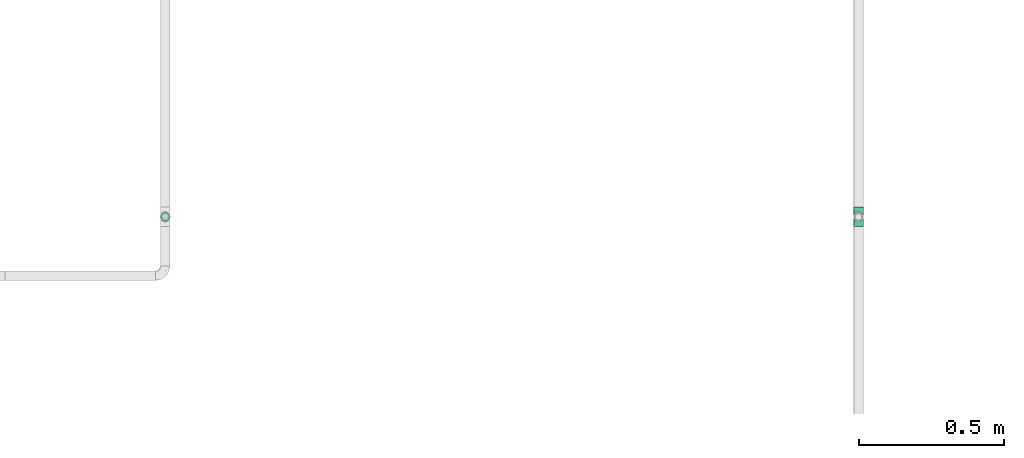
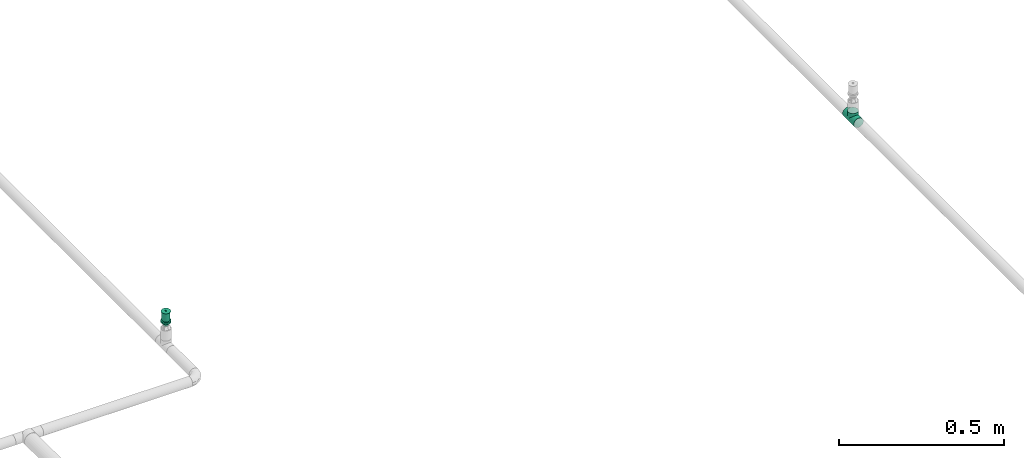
# One storey, part 13 of 31: 1 flow fitting, 1 flow terminal.
"""IFC2X3 building model written with IfcOpenShell, lengths in millimetres."""

from ifc_helpers import new_model, entity, si_unit, converted_unit, derived_unit, direction, frame, origin_with_axes, place, context, subcontext, project, spatial, open_shell, surface_model, source, transform, mapped, type_object, element, save


model = new_model("IFC2X3")

# Units and contexts
model_context = context("Model", 3, precision=0.01, world=frame((0.0, 4.29681676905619e-09, 0.0)), true_north=direction((4.01073788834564e-13, 1.0)))
plan_context = context("Plan", 3, precision=0.01, world=frame((0.0, 4.29681676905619e-09, 0.0)), true_north=direction((4.01073788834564e-13, 1.0)))
body_context = subcontext(model_context, "Body", "Model", "MODEL_VIEW")
ifc_project = project(units=[converted_unit("PLANEANGLEUNIT", "DEGREE", entity("IfcPositiveLengthMeasure", 0.0174532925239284), si_unit("PLANEANGLEUNIT", "RADIAN"), dimensions=[0, 0, 0, 0, 0, 0, 0]), si_unit("AREAUNIT", "SQUARE_METRE"), si_unit("LENGTHUNIT", "METRE", prefix="MILLI"), si_unit("MASSUNIT", "GRAM", prefix="KILO"), si_unit("POWERUNIT", "WATT"), si_unit("PRESSUREUNIT", "PASCAL", prefix="KILO"), si_unit("FORCEUNIT", "NEWTON", prefix="KILO"), si_unit("ELECTRICVOLTAGEUNIT", "VOLT"), si_unit("ELECTRICCURRENTUNIT", "AMPERE"), si_unit("THERMODYNAMICTEMPERATUREUNIT", "DEGREE_CELSIUS"), si_unit("TIMEUNIT", "SECOND"), si_unit("VOLUMEUNIT", "CUBIC_METRE"), derived_unit("LINEARVELOCITYUNIT", [(si_unit("LENGTHUNIT", "METRE"), 1), (si_unit("TIMEUNIT", "SECOND"), -1)]), derived_unit("VOLUMETRICFLOWRATEUNIT", [(si_unit("VOLUMEUNIT", "CUBIC_METRE"), 1), (si_unit("TIMEUNIT", "SECOND"), -1)]), derived_unit("THERMALTRANSMITTANCEUNIT", [(si_unit("POWERUNIT", "WATT"), 1), (si_unit("THERMODYNAMICTEMPERATUREUNIT", "KELVIN"), -1), (si_unit("AREAUNIT", "SQUARE_METRE"), -1)]), derived_unit("SOUNDPRESSUREUNIT", [(si_unit("PRESSUREUNIT", "PASCAL"), 1)])], contexts=[model_context, plan_context])

# Site, building, storey
site_placement = place(None, frame((0.0, -4.29681676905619e-09, 0.0), z_axis=(0.0, 0.0, 1.0), x_axis=(1.0, 0.0, 0.0)))
site = spatial("IfcSite", under=ifc_project, at=site_placement, CompositionType="ELEMENT")
building_placement = place(site_placement, frame((0.0, 4.29681676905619e-09, 0.0), z_axis=(0.0, 0.0, 1.0), x_axis=(1.0, 0.0, 0.0)))
building = spatial("IfcBuilding", under=site, at=building_placement, Name="mc-building", CompositionType="ELEMENT")
storey_placement = place(building_placement, frame((0.0, 0.0, 200300.0), z_axis=(0.0, 0.0, 1.0), x_axis=(1.0, 0.0, 0.0)))
storey = spatial("IfcBuildingStorey", under=building, at=storey_placement, Name="Nivå C", CompositionType="ELEMENT", Elevation=200300.0)

# Flow fitting
pipe_fitting_type = type_object("IfcPipeFittingType", Name="magi_pipe_fe_tee_centric_90_NOR", PredefinedType="JUNCTION")
shared_shape_1 = source(origin_with_axes(), body_context, "Body", "SurfaceModel", [
    surface_model("IfcShellBasedSurfaceModel", [(-33.8, 4.37404, -16.32415), (-33.8, 0.0, -16.9), (-33.8, 16.32415, -4.37404), (-33.8, 8.45, -14.63583), (-33.8, 11.9501, -11.9501), (-33.8, 14.63583, -8.45), (-33.8, -16.9, 0.0), (-33.8, -11.9501, -11.9501), (-33.8, -14.63583, -8.45), (-33.8, -8.45, -14.63583), (-33.8, -4.37404, -16.32415), (-33.8, -16.32415, -4.37404), (-33.8, 14.63583, 8.45), (-33.8, 16.32415, 4.37404), (-33.8, -8.45, 14.63583), (-33.8, 8.45, 14.63583), (-33.8, 11.9501, 11.9501), (-33.8, 4.37404, 16.32415), (-33.8, 0.0, 16.9), (-33.8, -11.9501, 11.9501), (-33.8, -14.63583, 8.45), (-33.8, -16.32415, 4.37404), (-33.8, -4.37404, 16.32415), (-33.8, 16.9, 0.0), (33.8, 4.37404, -16.32415), (33.8, -16.9, 0.0), (33.8, 0.0, -16.9), (33.8, 14.63583, -8.45), (33.8, 8.45, -14.63583), (33.8, 16.32415, -4.37404), (33.8, 11.9501, -11.9501), (33.8, -16.32415, 4.37404), (33.8, -8.45, -14.63583), (33.8, -4.37404, -16.32415), (33.8, -11.9501, -11.9501), (33.8, -14.63583, -8.45), (33.8, -16.32415, -4.37404), (33.8, 16.32415, 4.37404), (33.8, 8.45, 14.63583), (33.8, 14.63583, 8.45), (33.8, 11.9501, 11.9501), (33.8, -8.45, 14.63583), (33.8, 4.37404, 16.32415), (33.8, -14.63583, 8.45), (33.8, -11.9501, 11.9501), (33.8, 0.0, 16.9), (33.8, -4.37404, 16.32415), (33.8, 16.9, 0.0), (16.28698, -16.28698, 4.51047), (16.9, -16.9, 0.0), (14.62704, -14.62704, 8.4652), (9.47213, -9.47213, 13.99602), (12.26343, -12.26343, 11.62834), (-16.9, -16.9, 0.0), (-16.28698, -16.28698, 4.51047), (-14.62704, -14.62704, 8.4652), (-12.26343, -12.26343, 11.62834), (-9.47213, -9.47213, 13.99602), (-6.42894, -6.42894, 15.62942), (6.42894, -6.42894, 15.62942), (3.24522, -3.24522, 16.58549), (0.0, 0.0, 16.9), (-3.24522, -3.24522, 16.58549), (3.24522, -3.24522, -16.58549), (0.0, 0.0, -16.9), (-3.24522, -3.24522, -16.58549), (-6.42894, -6.42894, -15.62942), (6.42894, -6.42894, -15.62942), (9.47213, -9.47213, -13.99602), (12.26343, -12.26343, -11.62834), (14.62704, -14.62704, -8.4652), (16.28698, -16.28698, -4.51047), (-9.47213, -9.47213, -13.99602), (-12.26343, -12.26343, -11.62834), (-16.28698, -16.28698, -4.51047), (-14.62704, -14.62704, -8.4652), (4.37404, -25.35, -16.32415), (-16.9, -25.35, 0.0), (0.0, -25.35, -16.9), (14.63583, -25.35, -8.45), (8.45, -25.35, -14.63583), (16.32415, -25.35, -4.37404), (11.9501, -25.35, -11.9501), (-11.9501, -25.35, -11.9501), (-8.45, -25.35, -14.63583), (-4.37404, -25.35, -16.32415), (-14.63583, -25.35, -8.45), (-16.32415, -25.35, -4.37404), (16.9, -25.35, 0.0), (8.45, -25.35, 14.63583), (16.32415, -25.35, 4.37404), (14.63583, -25.35, 8.45), (-8.45, -25.35, 14.63583), (11.9501, -25.35, 11.9501), (4.37404, -25.35, 16.32415), (-16.32415, -25.35, 4.37404), (-11.9501, -25.35, 11.9501), (-14.63583, -25.35, 8.45), (0.0, -25.35, 16.9), (-4.37404, -25.35, 16.32415)], [open_shell([[[0, 1, 2]], [[3, 0, 4]], [[0, 2, 5]], [[4, 0, 5]], [[6, 2, 1]], [[7, 8, 9]], [[1, 10, 9]], [[11, 6, 8]], [[1, 9, 8]], [[1, 8, 6]], [[6, 12, 2]], [[12, 13, 2]], [[14, 12, 6]], [[12, 14, 15]], [[16, 12, 15]], [[17, 15, 18]], [[19, 14, 20]], [[21, 20, 14]], [[22, 18, 14]], [[14, 6, 21]], [[14, 18, 15]], [[23, 2, 13]], [[24, 25, 26]], [[27, 24, 28]], [[27, 29, 24]], [[27, 28, 30]], [[31, 25, 24]], [[26, 32, 33]], [[26, 34, 32]], [[35, 25, 36]], [[35, 34, 26]], [[25, 35, 26]], [[24, 29, 31]], [[29, 37, 38]], [[38, 37, 39]], [[38, 31, 29]], [[38, 39, 40]], [[41, 38, 42]], [[43, 41, 44]], [[41, 43, 31]], [[41, 45, 46]], [[41, 31, 38]], [[42, 45, 41]], [[29, 47, 37]], [[31, 43, 48]], [[25, 31, 49]], [[49, 31, 48]], [[43, 50, 48]], [[44, 41, 51]], [[50, 43, 52]], [[51, 52, 44]], [[52, 43, 44]], [[53, 54, 21]], [[53, 21, 6]], [[21, 54, 20]], [[54, 55, 20]], [[56, 57, 19]], [[19, 20, 56]], [[19, 57, 14]], [[56, 20, 55]], [[14, 57, 58]], [[51, 41, 59]], [[60, 45, 61]], [[59, 46, 60]], [[46, 59, 41]], [[60, 46, 45]], [[61, 45, 42]], [[39, 37, 13]], [[16, 38, 40]], [[12, 40, 39]], [[42, 38, 15]], [[23, 37, 47]], [[62, 61, 18]], [[62, 22, 58]], [[22, 62, 18]], [[58, 22, 14]], [[61, 17, 18]], [[42, 17, 61]], [[15, 17, 42]], [[15, 38, 16]], [[12, 16, 40]], [[13, 12, 39]], [[37, 23, 13]], [[5, 27, 30]], [[23, 47, 29]], [[30, 28, 3]], [[27, 2, 29]], [[26, 33, 63]], [[26, 64, 24]], [[64, 26, 63]], [[28, 24, 0]], [[64, 0, 24]], [[4, 30, 3]], [[2, 27, 5]], [[5, 30, 4]], [[2, 23, 29]], [[65, 66, 10]], [[1, 0, 64]], [[1, 65, 10]], [[66, 9, 10]], [[0, 3, 28]], [[1, 64, 65]], [[63, 33, 67]], [[32, 34, 68]], [[69, 68, 34]], [[35, 70, 69]], [[69, 34, 35]], [[32, 68, 67]], [[36, 25, 49]], [[36, 71, 35]], [[71, 36, 49]], [[35, 71, 70]], [[72, 9, 66]], [[72, 7, 9]], [[7, 72, 73]], [[7, 73, 8]], [[74, 53, 11]], [[75, 74, 8]], [[74, 11, 8]], [[11, 53, 6]], [[75, 8, 73]], [[32, 67, 33]], [[76, 77, 78]], [[79, 76, 80]], [[79, 81, 76]], [[79, 80, 82]], [[77, 76, 81]], [[78, 83, 84]], [[84, 85, 78]], [[86, 77, 87]], [[83, 78, 86]], [[77, 86, 78]], [[81, 88, 77]], [[89, 88, 90]], [[89, 90, 91]], [[92, 77, 89]], [[89, 91, 93]], [[92, 89, 94]], [[95, 96, 97]], [[96, 95, 92]], [[92, 98, 99]], [[95, 77, 92]], [[94, 98, 92]], [[89, 77, 88]], [[77, 95, 53]], [[54, 53, 95]], [[97, 96, 56]], [[96, 92, 57]], [[95, 97, 54]], [[58, 92, 99]], [[55, 54, 97]], [[56, 55, 97]], [[58, 57, 92]], [[98, 61, 62]], [[58, 99, 62]], [[56, 96, 57]], [[62, 99, 98]], [[94, 60, 98]], [[89, 59, 94]], [[91, 90, 48]], [[52, 93, 91]], [[93, 51, 89]], [[49, 90, 88]], [[59, 60, 94]], [[51, 59, 89]], [[49, 48, 90]], [[50, 52, 91]], [[48, 50, 91]], [[51, 93, 52]], [[98, 60, 61]], [[88, 81, 49]], [[71, 49, 81]], [[79, 82, 69]], [[82, 80, 68]], [[81, 79, 71]], [[67, 80, 76]], [[70, 71, 79]], [[69, 70, 79]], [[67, 68, 80]], [[78, 64, 63]], [[67, 76, 63]], [[69, 82, 68]], [[63, 76, 78]], [[85, 65, 78]], [[84, 66, 85]], [[86, 87, 74]], [[86, 73, 83]], [[72, 84, 83]], [[53, 87, 77]], [[66, 65, 85]], [[72, 66, 84]], [[53, 74, 87]], [[75, 73, 86]], [[74, 75, 86]], [[72, 83, 73]], [[78, 65, 64]]])]),
])
flow_fitting_placement = place(storey_placement, frame((608500.0, 400928.19532, 2900.0), z_axis=(-1.0, 0.0, 0.0), x_axis=(0.0, 1.0, 0.0)))
element("IfcFlowFitting", 1, at=flow_fitting_placement, inside=storey, type_object=pipe_fitting_type, Name="magi_pipe_fe_tee_centric_90_NOR", context=body_context, shape_type="MappedRepresentation", body=[
    mapped(shared_shape_1, transform((0.0, 0.0, 0.0), scale=1.0)),
])

# Flow terminal
fire_suppression_terminal_type = type_object("IfcFireSuppressionTerminalType", Name="68DGR-STD-STÅENDE", PredefinedType="NOTDEFINED")
shared_shape_2 = source(origin_with_axes(), body_context, "Body", "SurfaceModel", [
    surface_model("IfcShellBasedSurfaceModel", [(12.55704, 3.36465, 21.14766), (13.0, 0.0, 21.14766), (12.55704, -3.36465, 21.14766), (-12.55704, -3.36465, 21.14766), (-11.25833, -6.5, 21.14766), (-11.25833, -6.5, 51.0), (3.36465, -12.55704, 51.0), (3.36465, -12.55704, 21.14766), (6.5, -11.25833, 21.14766), (9.19239, -9.19239, 21.14766), (11.25833, -6.5, 21.14766), (9.19239, -9.19239, 51.0), (6.5, -11.25833, 51.0), (11.25833, -6.5, 51.0), (12.55704, -3.36465, 51.0), (13.0, 0.0, 51.0), (9.19239, 9.19239, 51.0), (11.25833, 6.5, 21.14766), (9.19239, 9.19239, 21.14766), (11.25833, 6.5, 51.0), (12.55704, 3.36465, 51.0), (6.5, 11.25833, 51.0), (6.5, 11.25833, 21.14766), (3.36465, 12.55704, 21.14766), (3.36465, 12.55704, 51.0), (-11.25833, 6.5, 51.0), (-11.25833, 6.5, 21.14766), (-12.55704, 3.36465, 21.14766), (0.0, -2.5, 51.0), (-2.5, 0.0, 51.0), (0.0, 2.5, 51.0), (2.5, 0.0, 51.0), (11.31371, 11.31371, 53.0), (-11.31371, 11.31371, 53.0), (-11.31371, -11.31371, 53.0), (11.31371, -11.31371, 53.0), (1.62635, 1.62635, 51.0), (2.16506, 1.25, 51.0), (1.99186, 1.15, 51.0), (-1.76777, 1.76777, 51.0), (-1.25, 2.16506, 51.0), (-1.62635, 1.62635, 51.0), (1.99186, -1.15, 51.0), (2.16506, -1.25, 51.0), (1.62635, -1.62635, 51.0), (-1.62635, -1.62635, 51.0), (-1.25, -2.16506, 51.0), (-1.76777, -1.76777, 51.0), (0.0, 7.3, 0.0), (1.94114, 7.24444, 0.0), (1.88938, 7.05126, 0.0), (5.16188, 5.16188, 0.0), (6.49519, 3.75, 0.0), (6.32199, 3.65, 0.0), (-5.3033, 5.3033, 0.0), (-3.75, 6.49519, 0.0), (-5.16188, 5.16188, 0.0), (6.32199, -3.65, 0.0), (6.49519, -3.75, 0.0), (5.16188, -5.16188, 0.0), (1.88938, -7.05126, 0.0), (1.94114, -7.24444, 0.0), (0.0, -7.3, 0.0), (-5.16188, -5.16188, 0.0), (-3.75, -6.49519, 0.0), (-5.3033, -5.3033, 0.0), (-3.36465, 12.55704, 51.0), (-6.5, 11.25833, 51.0), (0.0, 13.0, 51.0), (-9.19239, 9.19239, 51.0), (0.0, -13.0, 51.0), (-9.19239, -9.19239, 51.0), (-12.55704, -3.36465, 51.0), (-6.5, -11.25833, 51.0), (-3.36465, -12.55704, 51.0), (-7.5, 0.0, -0.1), (-7.24444, 1.94114, 0.1), (-7.24444, 1.94114, -0.1), (-6.49519, 3.75, 0.1), (-6.49519, 3.75, -0.1), (-3.75, 6.49519, -0.1), (-5.3033, 5.3033, -0.1), (-3.75, 6.49519, 0.1), (-5.3033, 5.3033, 0.1), (-1.94114, 7.24444, -0.1), (-1.94114, 7.24444, 0.1), (-7.5, 0.0, 0.1), (0.0, 7.5, 0.1), (0.0, 7.5, -0.1), (1.94114, 7.24444, 0.1), (1.94114, 7.24444, -0.1), (3.75, 6.49519, 0.1), (3.75, 6.49519, -0.1), (6.49519, 3.75, -0.1), (5.3033, 5.3033, -0.1), (6.49519, 3.75, 0.1), (5.3033, 5.3033, 0.1), (7.24444, 1.94114, -0.1), (7.24444, 1.94114, 0.1), (7.5, 0.0, 0.1), (7.5, 0.0, -0.1), (-7.24444, -1.94114, 0.1), (7.24444, -1.94114, 0.1), (5.3033, -5.3033, 0.1), (6.49519, -3.75, 0.1), (-6.49519, -3.75, 0.1), (0.0, -7.5, 0.1), (1.94114, -7.24444, 0.1), (3.75, -6.49519, 0.1), (-3.75, -6.49519, 0.1), (-1.94114, -7.24444, 0.1), (-5.3033, -5.3033, 0.1), (0.0, -7.5, -0.1), (-6.49519, -3.75, -0.1), (1.94114, -7.24444, -0.1), (3.75, -6.49519, -0.1), (5.3033, -5.3033, -0.1), (7.24444, -1.94114, -0.1), (6.49519, -3.75, -0.1), (-3.75, -6.49519, -0.1), (-5.3033, -5.3033, -0.1), (-1.94114, -7.24444, -0.1), (-7.24444, -1.94114, -0.1), (16.0, 0.0, 53.0), (0.0, -16.0, 53.0), (-16.0, 0.0, 53.0), (0.0, 16.0, 53.0), (0.64705, 2.41481, 57.0), (0.0, 2.5, 57.0), (1.25, 2.16506, 57.0), (-2.5, 0.0, 57.0), (1.76777, 1.76777, 57.0), (2.41481, 0.64705, 57.0), (2.16506, 1.25, 57.0), (-0.64705, 2.41481, 57.0), (-1.25, 2.16506, 57.0), (-1.76777, 1.76777, 57.0), (-2.16506, 1.25, 57.0), (-2.41481, 0.64705, 57.0), (2.5, 0.0, 57.0), (1.76777, -1.76777, 57.0), (2.16506, -1.25, 57.0), (2.41481, -0.64705, 57.0), (-2.41481, -0.64705, 57.0), (0.64705, -2.41481, 57.0), (1.25, -2.16506, 57.0), (0.0, -2.5, 57.0), (-1.76777, -1.76777, 57.0), (-2.16506, -1.25, 57.0), (-1.25, -2.16506, 57.0), (-0.64705, -2.41481, 57.0), (1.15, -1.99186, 51.0), (1.76777, -1.76777, 51.0), (1.25, -2.16506, 51.0), (0.59528, -2.22163, 51.0), (0.0, -2.3, 51.0), (0.64705, -2.41481, 51.0), (2.22163, -0.59528, 51.0), (2.3, 0.0, 51.0), (2.41481, -0.64705, 51.0), (-0.64705, -2.41481, 51.0), (-0.59528, -2.22163, 51.0), (-1.15, -1.99186, 51.0), (-2.16506, -1.25, 51.0), (-1.99186, -1.15, 51.0), (-2.22163, -0.59528, 51.0), (-2.3, 0.0, 51.0), (-2.41481, -0.64705, 51.0), (2.22163, 0.59528, 51.0), (2.41481, 0.64705, 51.0), (1.76777, 1.76777, 51.0), (1.15, 1.99186, 51.0), (1.25, 2.16506, 51.0), (0.59528, 2.22163, 51.0), (0.0, 2.3, 51.0), (0.64705, 2.41481, 51.0), (-1.99186, 1.15, 51.0), (-2.16506, 1.25, 51.0), (-2.41481, 0.64705, 51.0), (-2.22163, 0.59528, 51.0), (-0.64705, 2.41481, 51.0), (-0.59528, 2.22163, 51.0), (-1.15, 1.99186, 51.0), (-2.22163, 0.59528, 56.8), (-1.99186, 1.15, 56.8), (-1.15, 1.99186, 56.8), (-1.62635, 1.62635, 56.8), (-0.59528, 2.22163, 56.8), (-2.3, 0.0, 56.8), (0.0, 2.3, 56.8), (0.59528, 2.22163, 56.8), (1.15, 1.99186, 56.8), (1.99186, 1.15, 56.8), (1.62635, 1.62635, 56.8), (2.22163, 0.59528, 56.8), (2.3, 0.0, 56.8), (2.22163, -0.59528, 56.8), (1.99186, -1.15, 56.8), (1.62635, -1.62635, 56.8), (1.15, -1.99186, 56.8), (0.59528, -2.22163, 56.8), (0.0, -2.3, 56.8), (-1.99186, -1.15, 56.8), (-2.22163, -0.59528, 56.8), (-1.62635, -1.62635, 56.8), (-0.59528, -2.22163, 56.8), (-1.15, -1.99186, 56.8), (8.0, -13.85641, 13.0), (4.1411, -15.45481, 13.0), (0.0, -16.0, 13.0), (-4.1411, -15.45481, 13.0), (15.45481, -4.1411, 13.0), (13.85641, -8.0, 13.0), (11.31371, -11.31371, 13.0), (-16.0, 0.0, 13.0), (-8.0, -13.85641, 13.0), (-11.31371, -11.31371, 13.0), (-13.85641, -8.0, 13.0), (-15.45481, -4.1411, 13.0), (15.45481, 4.1411, 13.0), (4.1411, 15.45481, 13.0), (13.85641, 8.0, 13.0), (8.0, 13.85641, 13.0), (11.31371, 11.31371, 13.0), (-15.45481, 4.1411, 13.0), (-11.31371, 11.31371, 13.0), (-8.0, 13.85641, 13.0), (-13.85641, 8.0, 13.0), (-4.1411, 15.45481, 13.0), (0.0, 16.0, 13.0), (16.0, 0.0, 13.0), (7.05126, 1.88938, 12.8), (1.88938, 7.05126, 12.8), (3.65, 6.32199, 12.8), (6.32199, 3.65, 12.8), (5.16188, 5.16188, 12.8), (7.3, 0.0, 12.8), (0.0, 7.3, 12.8), (-3.65, 6.32199, 12.8), (-1.88938, 7.05126, 12.8), (-5.16188, 5.16188, 12.8), (-7.05126, 1.88938, 12.8), (-6.32199, 3.65, 12.8), (7.05126, -1.88938, 12.8), (0.0, -7.3, 12.8), (6.32199, -3.65, 12.8), (3.65, -6.32199, 12.8), (5.16188, -5.16188, 12.8), (1.88938, -7.05126, 12.8), (-7.3, 0.0, 12.8), (-6.32199, -3.65, 12.8), (-7.05126, -1.88938, 12.8), (-1.88938, -7.05126, 12.8), (-5.16188, -5.16188, 12.8), (-3.65, -6.32199, 12.8), (-7.05126, 1.88938, 0.0), (-7.3, 0.0, 0.0), (-6.32199, 3.65, 0.0), (-3.65, 6.32199, 0.0), (-1.88938, 7.05126, 0.0), (3.65, 6.32199, 0.0), (7.05126, 1.88938, 0.0), (7.3, 0.0, 0.0), (3.75, 6.49519, 13.0), (1.94114, 7.24444, 13.0), (7.5, 0.0, 13.0), (5.3033, 5.3033, 13.0), (7.24444, 1.94114, 13.0), (6.49519, 3.75, 13.0), (-5.3033, 5.3033, 13.0), (-7.24444, -1.94114, 13.0), (-1.94114, 7.24444, 13.0), (-3.75, 6.49519, 13.0), (0.0, 7.5, 13.0), (-6.49519, 3.75, 13.0), (-7.24444, 1.94114, 13.0), (7.24444, -1.94114, 13.0), (5.3033, -5.3033, 13.0), (6.49519, -3.75, 13.0), (-6.49519, -3.75, 13.0), (0.0, -7.5, 13.0), (1.94114, -7.24444, 13.0), (3.75, -6.49519, 13.0), (-7.5, 0.0, 13.0), (-3.75, -6.49519, 13.0), (-1.94114, -7.24444, 13.0), (-5.3033, -5.3033, 13.0), (3.65, -6.32199, 0.0), (5.3033, -5.3033, 0.0), (3.75, -6.49519, 0.0), (0.0, -7.5, 0.0), (7.05126, -1.88938, 0.0), (7.24444, -1.94114, 0.0), (7.5, 0.0, 0.0), (-1.94114, -7.24444, 0.0), (-1.88938, -7.05126, 0.0), (-3.65, -6.32199, 0.0), (-6.49519, -3.75, 0.0), (-6.32199, -3.65, 0.0), (-7.05126, -1.88938, 0.0), (-7.24444, -1.94114, 0.0), (-7.5, 0.0, 0.0), (7.24444, 1.94114, 0.0), (5.3033, 5.3033, 0.0), (3.75, 6.49519, 0.0), (0.0, 7.5, 0.0), (-6.49519, 3.75, 0.0), (-7.24444, 1.94114, 0.0), (-1.94114, 7.24444, 0.0), (-12.55704, 3.36465, 51.0), (-13.0, 0.0, 51.0), (0.0, -13.0, 21.14766), (-3.36465, -12.55704, 21.14766), (-6.5, -11.25833, 21.14766), (-9.19239, -9.19239, 21.14766), (-13.0, 0.0, 21.14766), (-9.19239, 9.19239, 21.14766), (-6.5, 11.25833, 21.14766), (-3.36465, 12.55704, 21.14766), (0.0, 13.0, 21.14766), (11.31371, 11.31371, 19.0), (8.0, 13.85641, 19.0), (4.1411, 15.45481, 19.0), (-8.0, 13.85641, 19.0), (16.0, 0.0, 19.0), (15.45481, 4.1411, 19.0), (13.85641, 8.0, 19.0), (-4.1411, 15.45481, 19.0), (0.0, 16.0, 19.0), (-11.31371, 11.31371, 19.0), (-13.85641, 8.0, 19.0), (-15.45481, 4.1411, 19.0), (15.45481, -4.1411, 19.0), (11.31371, -11.31371, 19.0), (13.85641, -8.0, 19.0), (-16.0, 0.0, 19.0), (0.0, -16.0, 19.0), (4.1411, -15.45481, 19.0), (8.0, -13.85641, 19.0), (-13.85641, -8.0, 19.0), (-11.31371, -11.31371, 19.0), (-15.45481, -4.1411, 19.0), (-8.0, -13.85641, 19.0), (-4.1411, -15.45481, 19.0)], [open_shell([[[0, 1, 2]], [[3, 4, 5]], [[6, 7, 8]], [[9, 10, 11]], [[9, 11, 12]], [[10, 13, 11]], [[14, 13, 2]], [[1, 15, 14]], [[16, 17, 18]], [[0, 19, 20]], [[20, 15, 1]], [[21, 16, 18]], [[22, 23, 24]], [[16, 19, 17]], [[25, 26, 27]], [[28, 29, 30]], [[30, 31, 28]], [[31, 30, 32]], [[33, 30, 29]], [[29, 28, 34]], [[35, 28, 31]], [[36, 37, 38]], [[39, 40, 41]], [[42, 43, 44]], [[45, 46, 47]], [[48, 49, 50]], [[51, 52, 53]], [[54, 55, 56]], [[57, 58, 59]], [[60, 61, 62]], [[63, 64, 65]], [[66, 67, 68]], [[67, 24, 68]], [[69, 25, 67]], [[15, 20, 14]], [[70, 6, 12]], [[5, 71, 72]], [[73, 74, 71]], [[72, 71, 74]], [[75, 76, 77]], [[77, 78, 79]], [[80, 81, 82]], [[83, 81, 79]], [[84, 80, 85]], [[76, 78, 77]], [[75, 86, 76]], [[80, 82, 85]], [[82, 81, 83]], [[79, 78, 83]], [[84, 85, 87]], [[87, 88, 84]], [[88, 89, 90]], [[90, 91, 92]], [[93, 94, 95]], [[96, 94, 92]], [[97, 93, 98]], [[91, 96, 92]], [[90, 89, 91]], [[97, 98, 99]], [[98, 93, 95]], [[94, 96, 95]], [[97, 99, 100]], [[87, 89, 88]], [[91, 89, 99]], [[96, 91, 98]], [[91, 99, 98]], [[95, 96, 98]], [[89, 83, 101]], [[85, 82, 87]], [[83, 87, 82]], [[78, 76, 83]], [[89, 87, 83]], [[76, 101, 83]], [[102, 99, 89]], [[103, 104, 102]], [[89, 105, 103]], [[103, 106, 107]], [[108, 103, 107]], [[106, 103, 105]], [[89, 101, 105]], [[101, 76, 86]], [[109, 110, 111]], [[105, 111, 110]], [[106, 105, 110]], [[103, 102, 89]], [[112, 113, 114]], [[115, 114, 116]], [[117, 118, 116]], [[113, 116, 114]], [[116, 113, 117]], [[119, 120, 121]], [[113, 121, 120]], [[121, 113, 112]], [[113, 122, 117]], [[75, 77, 122]], [[100, 117, 122]], [[100, 81, 97]], [[93, 97, 90]], [[90, 92, 94]], [[93, 90, 94]], [[90, 97, 81]], [[79, 81, 77]], [[77, 81, 122]], [[84, 88, 80]], [[81, 80, 88]], [[81, 88, 90]], [[100, 122, 81]], [[100, 102, 117]], [[117, 104, 118]], [[115, 116, 108]], [[103, 116, 118]], [[114, 115, 107]], [[102, 104, 117]], [[100, 99, 102]], [[115, 108, 107]], [[108, 116, 103]], [[118, 104, 103]], [[114, 107, 106]], [[106, 112, 114]], [[112, 110, 121]], [[121, 109, 119]], [[113, 120, 105]], [[111, 120, 119]], [[122, 113, 101]], [[109, 111, 119]], [[121, 110, 109]], [[122, 101, 86]], [[101, 113, 105]], [[120, 111, 105]], [[122, 86, 75]], [[106, 110, 112]], [[31, 123, 35]], [[35, 124, 28]], [[124, 34, 28]], [[29, 34, 125]], [[33, 32, 126]], [[33, 125, 124]], [[124, 32, 33]], [[124, 35, 123]], [[124, 125, 34]], [[123, 32, 124]], [[29, 125, 33]], [[33, 126, 30]], [[126, 32, 30]], [[31, 32, 123]], [[127, 128, 129]], [[129, 130, 131]], [[132, 131, 130]], [[133, 131, 132]], [[130, 129, 128]], [[134, 135, 128]], [[136, 128, 135]], [[137, 138, 136]], [[128, 136, 130]], [[138, 130, 136]], [[139, 132, 130]], [[140, 141, 142]], [[143, 140, 139]], [[144, 140, 143]], [[145, 140, 144]], [[146, 144, 147]], [[139, 130, 143]], [[143, 148, 144]], [[149, 150, 147]], [[144, 148, 147]], [[146, 147, 150]], [[140, 142, 139]], [[151, 152, 153]], [[154, 151, 153]], [[155, 154, 156]], [[153, 156, 154]], [[28, 155, 156]], [[44, 152, 151]], [[157, 158, 159]], [[31, 159, 158]], [[43, 157, 159]], [[152, 44, 43]], [[157, 43, 42]], [[160, 161, 28]], [[161, 155, 28]], [[162, 161, 160]], [[160, 46, 162]], [[162, 46, 45]], [[47, 163, 164]], [[165, 164, 163]], [[45, 47, 164]], [[166, 165, 167]], [[163, 167, 165]], [[29, 166, 167]], [[168, 169, 31]], [[38, 169, 168]], [[169, 38, 37]], [[170, 37, 36]], [[171, 172, 170]], [[173, 172, 171]], [[174, 175, 173]], [[172, 173, 175]], [[30, 175, 174]], [[170, 36, 171]], [[39, 176, 177]], [[41, 176, 39]], [[178, 177, 176]], [[178, 179, 29]], [[176, 179, 178]], [[179, 166, 29]], [[180, 30, 181]], [[182, 180, 181]], [[182, 41, 40]], [[180, 182, 40]], [[181, 30, 174]], [[31, 158, 168]], [[29, 138, 178]], [[178, 137, 177]], [[40, 39, 135]], [[136, 39, 177]], [[180, 40, 134]], [[138, 137, 178]], [[29, 130, 138]], [[40, 135, 134]], [[135, 39, 136]], [[177, 137, 136]], [[180, 134, 128]], [[128, 30, 180]], [[30, 127, 175]], [[175, 129, 172]], [[37, 170, 133]], [[131, 170, 172]], [[169, 37, 132]], [[129, 131, 172]], [[175, 127, 129]], [[169, 132, 139]], [[132, 37, 133]], [[170, 131, 133]], [[169, 139, 31]], [[128, 127, 30]], [[179, 183, 166]], [[176, 184, 179]], [[185, 41, 182]], [[176, 41, 186]], [[187, 182, 181]], [[179, 184, 183]], [[183, 188, 166]], [[187, 185, 182]], [[186, 41, 185]], [[186, 184, 176]], [[189, 187, 181]], [[181, 174, 189]], [[173, 190, 174]], [[171, 191, 173]], [[192, 36, 38]], [[171, 36, 193]], [[194, 38, 168]], [[171, 193, 191]], [[191, 190, 173]], [[195, 194, 168]], [[192, 38, 194]], [[192, 193, 36]], [[158, 195, 168]], [[174, 190, 189]], [[31, 142, 159]], [[159, 141, 43]], [[153, 152, 145]], [[140, 152, 43]], [[156, 153, 144]], [[142, 141, 159]], [[31, 139, 142]], [[153, 145, 144]], [[145, 152, 140]], [[43, 141, 140]], [[156, 144, 146]], [[146, 28, 156]], [[28, 150, 160]], [[160, 149, 46]], [[163, 47, 148]], [[147, 47, 46]], [[167, 163, 143]], [[149, 147, 46]], [[160, 150, 149]], [[167, 143, 130]], [[143, 163, 148]], [[47, 147, 148]], [[167, 130, 29]], [[146, 150, 28]], [[190, 191, 193]], [[190, 193, 195]], [[194, 195, 193]], [[194, 193, 192]], [[190, 195, 186]], [[189, 185, 187]], [[185, 189, 186]], [[186, 183, 184]], [[186, 189, 190]], [[186, 196, 183]], [[186, 195, 196]], [[196, 197, 198]], [[196, 198, 199]], [[199, 200, 201]], [[199, 201, 196]], [[196, 201, 202]], [[188, 202, 203]], [[183, 202, 188]], [[204, 205, 206]], [[205, 204, 202]], [[201, 205, 202]], [[202, 183, 196]], [[157, 196, 158]], [[42, 197, 157]], [[199, 44, 151]], [[42, 44, 198]], [[200, 151, 154]], [[157, 197, 196]], [[196, 195, 158]], [[200, 199, 151]], [[198, 44, 199]], [[198, 197, 42]], [[201, 200, 154]], [[154, 155, 201]], [[161, 205, 155]], [[162, 206, 161]], [[202, 45, 164]], [[162, 45, 204]], [[203, 164, 165]], [[162, 204, 206]], [[206, 205, 161]], [[188, 203, 165]], [[202, 164, 203]], [[202, 204, 45]], [[166, 188, 165]], [[155, 205, 201]], [[207, 208, 209]], [[207, 209, 210]], [[211, 212, 213]], [[213, 207, 214]], [[211, 213, 214]], [[215, 216, 210]], [[217, 210, 216]], [[217, 218, 210]], [[218, 207, 210]], [[218, 214, 207]], [[214, 219, 211]], [[220, 219, 214]], [[221, 219, 220]], [[220, 222, 223]], [[221, 220, 223]], [[214, 224, 220]], [[225, 226, 227]], [[224, 227, 226]], [[228, 229, 226]], [[220, 224, 226]], [[226, 229, 220]], [[219, 230, 211]], [[231, 232, 233]], [[234, 233, 235]], [[231, 236, 232]], [[231, 233, 234]], [[232, 236, 237]], [[237, 238, 239]], [[238, 237, 240]], [[240, 241, 242]], [[240, 237, 236]], [[236, 241, 240]], [[236, 243, 241]], [[244, 243, 245]], [[246, 245, 247]], [[246, 248, 244]], [[246, 244, 245]], [[243, 244, 249]], [[249, 250, 251]], [[250, 249, 252]], [[253, 252, 254]], [[252, 253, 250]], [[249, 244, 252]], [[243, 249, 241]], [[255, 241, 256]], [[257, 242, 255]], [[238, 56, 258]], [[257, 56, 240]], [[239, 258, 259]], [[255, 242, 241]], [[241, 249, 256]], [[239, 238, 258]], [[240, 56, 238]], [[240, 242, 257]], [[237, 239, 259]], [[259, 48, 237]], [[50, 232, 48]], [[260, 233, 50]], [[234, 51, 53]], [[260, 51, 235]], [[231, 53, 261]], [[260, 235, 233]], [[233, 232, 50]], [[236, 231, 261]], [[234, 53, 231]], [[234, 235, 51]], [[262, 236, 261]], [[48, 232, 237]], [[263, 264, 265]], [[266, 263, 267]], [[263, 265, 267]], [[268, 266, 267]], [[264, 269, 270]], [[271, 272, 273]], [[269, 273, 272]], [[274, 275, 269]], [[264, 273, 269]], [[275, 270, 269]], [[276, 265, 264]], [[277, 278, 276]], [[264, 279, 277]], [[277, 280, 281]], [[282, 277, 281]], [[280, 277, 279]], [[264, 270, 279]], [[270, 275, 283]], [[284, 285, 286]], [[279, 286, 285]], [[280, 279, 285]], [[277, 276, 264]], [[287, 288, 289]], [[60, 287, 289]], [[290, 62, 61]], [[289, 61, 60]], [[59, 288, 287]], [[291, 262, 292]], [[293, 292, 262]], [[58, 291, 292]], [[288, 59, 58]], [[291, 58, 57]], [[294, 295, 290]], [[296, 295, 294]], [[294, 64, 296]], [[64, 63, 296]], [[295, 62, 290]], [[65, 297, 298]], [[299, 298, 297]], [[63, 65, 298]], [[256, 299, 300]], [[297, 300, 299]], [[301, 256, 300]], [[261, 302, 293]], [[53, 302, 261]], [[302, 53, 52]], [[303, 52, 51]], [[260, 304, 303]], [[50, 304, 260]], [[304, 50, 49]], [[305, 49, 48]], [[303, 51, 260]], [[54, 257, 306]], [[56, 257, 54]], [[307, 306, 257]], [[307, 255, 301]], [[257, 255, 307]], [[255, 256, 301]], [[308, 305, 259]], [[258, 308, 259]], [[55, 258, 56]], [[308, 258, 55]], [[259, 305, 48]], [[293, 262, 261]], [[301, 275, 307]], [[307, 274, 306]], [[55, 54, 272]], [[269, 54, 306]], [[308, 55, 271]], [[275, 274, 307]], [[301, 283, 275]], [[55, 272, 271]], [[272, 54, 269]], [[306, 274, 269]], [[308, 271, 273]], [[273, 305, 308]], [[305, 264, 49]], [[49, 263, 304]], [[52, 303, 268]], [[266, 303, 304]], [[302, 52, 267]], [[263, 266, 304]], [[49, 264, 263]], [[302, 267, 265]], [[267, 52, 268]], [[303, 266, 268]], [[302, 265, 293]], [[273, 264, 305]], [[293, 276, 292]], [[292, 278, 58]], [[289, 288, 282]], [[277, 288, 58]], [[61, 289, 281]], [[276, 278, 292]], [[293, 265, 276]], [[289, 282, 281]], [[282, 288, 277]], [[58, 278, 277]], [[61, 281, 280]], [[280, 290, 61]], [[290, 285, 294]], [[294, 284, 64]], [[297, 65, 279]], [[286, 65, 64]], [[300, 297, 270]], [[284, 286, 64]], [[294, 285, 284]], [[300, 270, 283]], [[270, 297, 279]], [[65, 286, 279]], [[300, 283, 301]], [[280, 285, 290]], [[291, 243, 262]], [[57, 245, 291]], [[246, 59, 287]], [[57, 59, 247]], [[248, 287, 60]], [[291, 245, 243]], [[243, 236, 262]], [[248, 246, 287]], [[247, 59, 246]], [[247, 245, 57]], [[244, 248, 60]], [[60, 62, 244]], [[295, 252, 62]], [[296, 254, 295]], [[250, 63, 298]], [[296, 63, 253]], [[251, 298, 299]], [[296, 253, 254]], [[254, 252, 295]], [[249, 251, 299]], [[250, 298, 251]], [[250, 253, 63]], [[256, 249, 299]], [[62, 252, 244]], [[16, 21, 24]], [[20, 16, 24]], [[24, 67, 72]], [[19, 16, 20]], [[24, 72, 20]], [[25, 72, 67]], [[309, 310, 25]], [[11, 13, 14]], [[72, 11, 20]], [[74, 12, 11]], [[12, 74, 70]], [[72, 25, 310]], [[72, 74, 11]], [[11, 14, 20]], [[8, 7, 311]], [[8, 311, 312]], [[2, 10, 9]], [[3, 9, 8]], [[3, 26, 9]], [[313, 314, 312]], [[3, 312, 314]], [[4, 3, 314]], [[3, 8, 312]], [[315, 26, 3]], [[2, 9, 26]], [[0, 2, 26]], [[17, 0, 18]], [[23, 22, 18]], [[0, 23, 18]], [[23, 0, 26]], [[316, 317, 26]], [[26, 315, 27]], [[318, 319, 317]], [[23, 26, 317]], [[23, 317, 319]], [[316, 26, 25]], [[318, 317, 67]], [[69, 317, 316]], [[319, 318, 66]], [[310, 309, 315]], [[27, 315, 309]], [[25, 27, 309]], [[25, 69, 316]], [[317, 69, 67]], [[67, 66, 318]], [[66, 68, 319]], [[22, 21, 18]], [[0, 17, 19]], [[1, 0, 20]], [[68, 24, 23]], [[24, 21, 22]], [[319, 68, 23]], [[1, 14, 2]], [[2, 13, 10]], [[6, 311, 7]], [[6, 8, 12]], [[12, 8, 9]], [[6, 70, 311]], [[313, 312, 74]], [[313, 73, 314]], [[71, 4, 314]], [[315, 3, 72]], [[70, 74, 312]], [[74, 73, 313]], [[73, 71, 314]], [[71, 5, 4]], [[3, 5, 72]], [[72, 310, 315]], [[311, 70, 312]], [[320, 321, 322]], [[320, 322, 323]], [[320, 324, 325]], [[326, 320, 325]], [[324, 320, 323]], [[327, 323, 328]], [[323, 322, 328]], [[329, 330, 323]], [[331, 323, 330]], [[323, 331, 324]], [[331, 332, 324]], [[333, 334, 332]], [[335, 333, 331]], [[336, 337, 338]], [[335, 338, 333]], [[338, 335, 336]], [[339, 340, 341]], [[335, 341, 340]], [[342, 343, 340]], [[335, 340, 343]], [[343, 336, 335]], [[332, 331, 333]], [[214, 331, 224]], [[224, 330, 227]], [[226, 225, 323]], [[329, 225, 227]], [[228, 226, 327]], [[331, 330, 224]], [[214, 335, 331]], [[226, 323, 327]], [[323, 225, 329]], [[227, 330, 329]], [[228, 327, 328]], [[328, 229, 228]], [[229, 322, 220]], [[220, 321, 222]], [[221, 223, 326]], [[320, 223, 222]], [[219, 221, 325]], [[321, 320, 222]], [[220, 322, 321]], [[219, 325, 324]], [[325, 221, 326]], [[223, 320, 326]], [[219, 324, 230]], [[328, 322, 229]], [[230, 332, 211]], [[211, 334, 212]], [[207, 213, 338]], [[333, 213, 212]], [[208, 207, 337]], [[332, 334, 211]], [[230, 324, 332]], [[207, 338, 337]], [[338, 213, 333]], [[212, 334, 333]], [[208, 337, 336]], [[336, 209, 208]], [[209, 343, 210]], [[210, 342, 215]], [[217, 216, 339]], [[340, 216, 215]], [[218, 217, 341]], [[342, 340, 215]], [[210, 343, 342]], [[218, 341, 335]], [[341, 217, 339]], [[216, 340, 339]], [[218, 335, 214]], [[336, 343, 209]]])]),
])
flow_terminal_placement = place(storey_placement, frame((606102.03234, 400928.19532, 2972.0), z_axis=(0.0, 0.0, 1.0), x_axis=(-1.0, 0.0, 0.0)))
element("IfcFlowTerminal", 2, at=flow_terminal_placement, inside=storey, type_object=fire_suppression_terminal_type, Name="68DGR-STD-STÅENDE", context=body_context, shape_type="MappedRepresentation", body=[
    mapped(shared_shape_2, transform((0.0, 0.0, 0.0), scale=1.0)),
])

save(model, "model.ifc")
